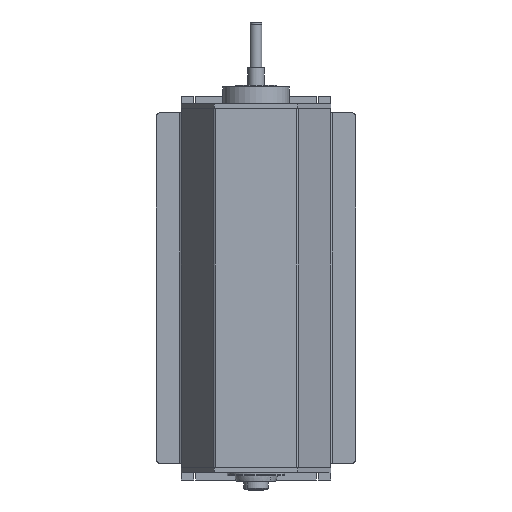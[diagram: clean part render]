
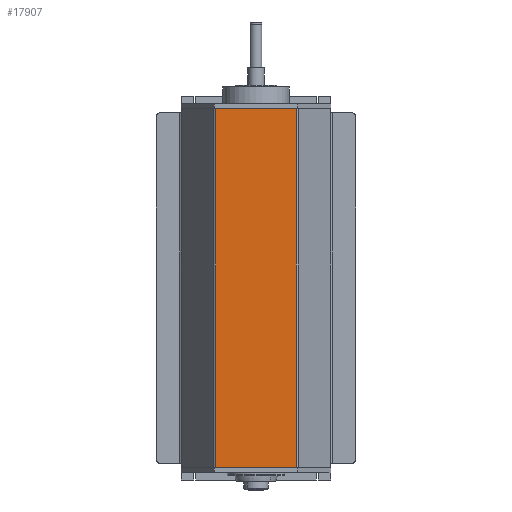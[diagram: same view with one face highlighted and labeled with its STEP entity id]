
A CAD part, front view. The second image highlights one B-rep face of the part: STEP entity #17907.
In plain terms, the highlighted planar face has unit normal (0, -1, 0).
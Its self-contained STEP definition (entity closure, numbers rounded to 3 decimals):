
#41 = FACE_OUTER_BOUND ( 'NONE', #20320, .T. ) ;
#251 = VECTOR ( 'NONE', #6139, 1000. ) ;
#1446 = PLANE ( 'NONE',  #9347 ) ;
#1455 = ORIENTED_EDGE ( 'NONE', *, *, #13004, .T. ) ;
#1461 = LINE ( 'NONE', #4699, #18896 ) ;
#2758 = CARTESIAN_POINT ( 'NONE',  ( 48.268, 0., -215.5 ) ) ;
#3222 = LINE ( 'NONE', #13590, #13907 ) ;
#3975 = VECTOR ( 'NONE', #13771, 1000. ) ;
#4055 = CARTESIAN_POINT ( 'NONE',  ( -48.268, 0., 215.5 ) ) ;
#4067 = VERTEX_POINT ( 'NONE', #2758 ) ;
#4699 = CARTESIAN_POINT ( 'NONE',  ( -50., 0., 215.5 ) ) ;
#5374 = EDGE_CURVE ( 'NONE', #9319, #4067, #18684, .T. ) ;
#5674 = DIRECTION ( 'NONE',  ( 0., 0., -1. ) ) ;
#6139 = DIRECTION ( 'NONE',  ( 1., 0., 0. ) ) ;
#6487 = EDGE_CURVE ( 'NONE', #15581, #4067, #3222, .T. ) ;
#7866 = CARTESIAN_POINT ( 'NONE',  ( -48.268, 0., 504.779 ) ) ;
#7989 = ORIENTED_EDGE ( 'NONE', *, *, #5374, .T. ) ;
#8062 = CARTESIAN_POINT ( 'NONE',  ( -48.268, 0., -215.5 ) ) ;
#8996 = VERTEX_POINT ( 'NONE', #4055 ) ;
#9319 = VERTEX_POINT ( 'NONE', #8062 ) ;
#9347 = AXIS2_PLACEMENT_3D ( 'NONE', #9570, #11092, #11030 ) ;
#9570 = CARTESIAN_POINT ( 'NONE',  ( -50., 0., 504.779 ) ) ;
#9573 = DIRECTION ( 'NONE',  ( -1., 0., 0. ) ) ;
#9788 = ORIENTED_EDGE ( 'NONE', *, *, #6487, .F. ) ;
#10067 = CARTESIAN_POINT ( 'NONE',  ( 48.268, 0., 215.5 ) ) ;
#10863 = CARTESIAN_POINT ( 'NONE',  ( -50., 0., -215.5 ) ) ;
#11030 = DIRECTION ( 'NONE',  ( -1., 0., 0. ) ) ;
#11092 = DIRECTION ( 'NONE',  ( 0., 1., 0. ) ) ;
#13004 = EDGE_CURVE ( 'NONE', #8996, #9319, #13173, .T. ) ;
#13173 = LINE ( 'NONE', #7866, #3975 ) ;
#13590 = CARTESIAN_POINT ( 'NONE',  ( 48.268, 0., 504.779 ) ) ;
#13771 = DIRECTION ( 'NONE',  ( 0., 0., -1. ) ) ;
#13907 = VECTOR ( 'NONE', #5674, 1000. ) ;
#15581 = VERTEX_POINT ( 'NONE', #10067 ) ;
#17907 = ADVANCED_FACE ( 'NONE', ( #41 ), #1446, .F. ) ;
#18684 = LINE ( 'NONE', #10863, #251 ) ;
#18896 = VECTOR ( 'NONE', #9573, 1000. ) ;
#19786 = EDGE_CURVE ( 'NONE', #15581, #8996, #1461, .T. ) ;
#19913 = ORIENTED_EDGE ( 'NONE', *, *, #19786, .T. ) ;
#20320 = EDGE_LOOP ( 'NONE', ( #19913, #1455, #7989, #9788 ) ) ;
